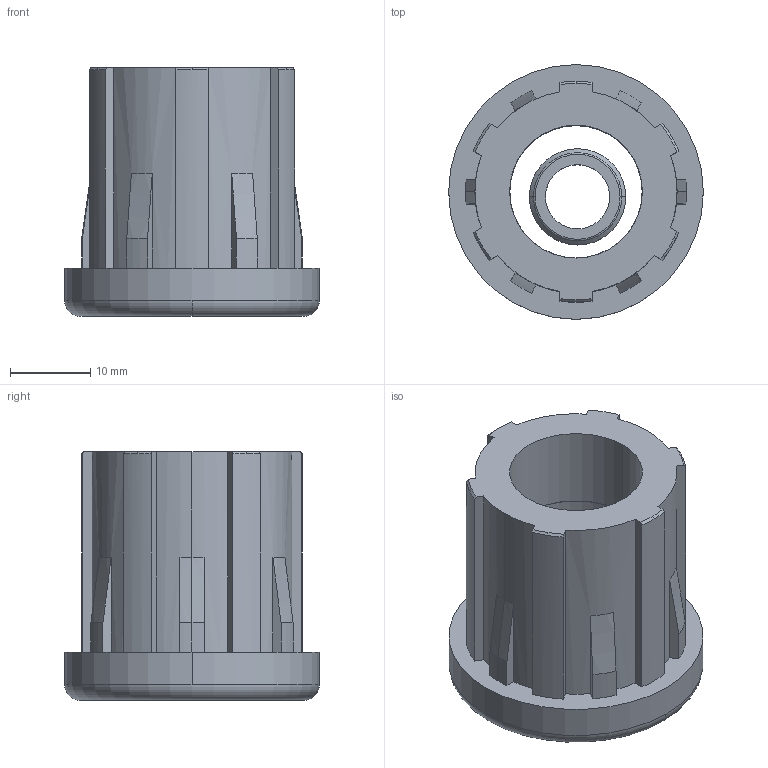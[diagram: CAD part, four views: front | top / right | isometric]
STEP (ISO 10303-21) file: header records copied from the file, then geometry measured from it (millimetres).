
FILE_DESCRIPTION (( 'STEP AP214' ), '1' );
FILE_NAME ('42006820208.STEP', '2020-02-25T17:33:52', ( '' ), ( '' ), 'SwSTEP 2.0', 'SolidWorks 2018', '' );
FILE_SCHEMA (( 'AUTOMOTIVE_DESIGN' ));
Length unit declared in the file: millimetre
Products named in the file (5): 42006820208.stp; BC_M8_2.stp; 42006820208; 68_7807.stp; Component1.stp
Assembly tree (4 placements, depth 4):
  42006820208
    42006820208.stp
      68_7807.stp
        Component1.stp
      BC_M8_2.stp
Bounding box: 31.75 x 31.75 x 31 mm (x, y, z)
Volume: 10839.9 mm3; surface area: 6521.6 mm2
Topology: 2 solids, 2 shells, 97 faces, 256 edges, 166 vertices
Faces by surface type: cylinder 36, plane 31, cone 26, torus 4
Entity records: 3228 total; most frequent: DIRECTION 584, CARTESIAN_POINT 564, ORIENTED_EDGE 512, EDGE_CURVE 256, AXIS2_PLACEMENT_3D 234, VERTEX_POINT 166, CIRCLE 128, LINE 116
